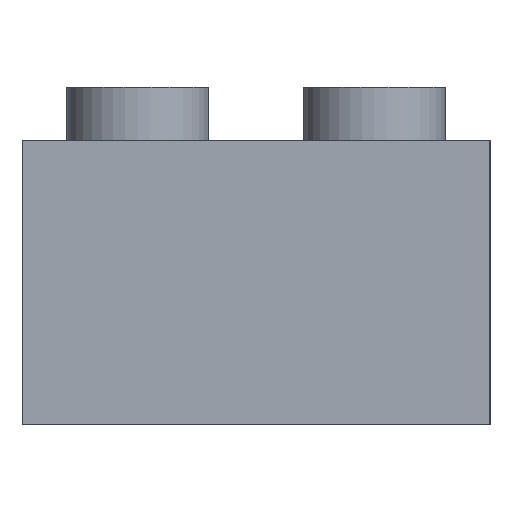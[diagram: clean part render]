
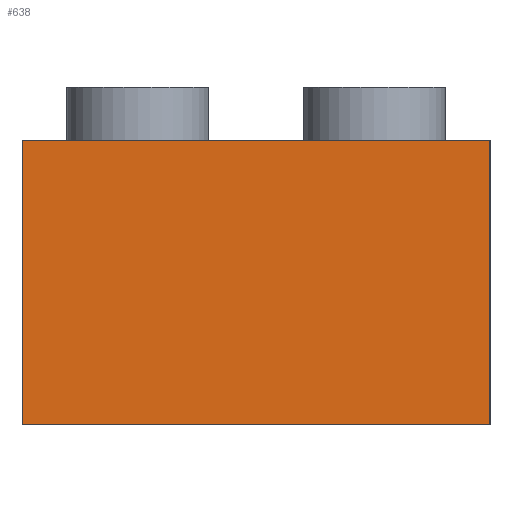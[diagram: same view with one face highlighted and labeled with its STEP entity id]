
A CAD part, left-side view. The second image highlights one B-rep face of the part: STEP entity #638.
In plain terms, the highlighted planar face has unit normal (-1, 0, 0).
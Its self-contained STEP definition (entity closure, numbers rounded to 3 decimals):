
#44 = PLANE('',#45);
#45 = AXIS2_PLACEMENT_3D('',#46,#47,#48);
#46 = CARTESIAN_POINT('',(-20.,-13.277,-9.58));
#47 = DIRECTION('',(0.,1.,0.));
#48 = DIRECTION('',(0.,0.,1.));
#72 = PLANE('',#73);
#73 = AXIS2_PLACEMENT_3D('',#74,#75,#76);
#74 = CARTESIAN_POINT('',(-20.,-13.277,-9.58));
#75 = DIRECTION('',(0.,0.,1.));
#76 = DIRECTION('',(1.,0.,0.));
#100 = PLANE('',#101);
#101 = AXIS2_PLACEMENT_3D('',#102,#103,#104);
#102 = CARTESIAN_POINT('',(-20.,13.277,-9.58));
#103 = DIRECTION('',(0.,1.,0.));
#104 = DIRECTION('',(0.,0.,1.));
#126 = PLANE('',#127);
#127 = AXIS2_PLACEMENT_3D('',#128,#129,#130);
#128 = CARTESIAN_POINT('',(-20.,-13.277,6.555));
#129 = DIRECTION('',(0.,0.,1.));
#130 = DIRECTION('',(1.,0.,0.));
#142 = VERTEX_POINT('',#143);
#143 = CARTESIAN_POINT('',(-20.,-13.277,-9.58));
#164 = EDGE_CURVE('',#142,#165,#167,.T.);
#165 = VERTEX_POINT('',#166);
#166 = CARTESIAN_POINT('',(-20.,-13.277,6.555));
#167 = SURFACE_CURVE('',#168,(#172,#179),.PCURVE_S1.);
#168 = LINE('',#169,#170);
#169 = CARTESIAN_POINT('',(-20.,-13.277,-9.58));
#170 = VECTOR('',#171,1.);
#171 = DIRECTION('',(0.,0.,1.));
#172 = PCURVE('',#44,#173);
#173 = DEFINITIONAL_REPRESENTATION('',(#174),#178);
#174 = LINE('',#175,#176);
#175 = CARTESIAN_POINT('',(0.,0.));
#176 = VECTOR('',#177,1.);
#177 = DIRECTION('',(1.,0.));
#178 = ( GEOMETRIC_REPRESENTATION_CONTEXT(2) 
PARAMETRIC_REPRESENTATION_CONTEXT() REPRESENTATION_CONTEXT('2D SPACE',''
  ) );
#179 = PCURVE('',#180,#185);
#180 = PLANE('',#181);
#181 = AXIS2_PLACEMENT_3D('',#182,#183,#184);
#182 = CARTESIAN_POINT('',(-20.,-13.277,-9.58));
#183 = DIRECTION('',(1.,0.,0.));
#184 = DIRECTION('',(0.,0.,1.));
#185 = DEFINITIONAL_REPRESENTATION('',(#186),#190);
#186 = LINE('',#187,#188);
#187 = CARTESIAN_POINT('',(0.,0.));
#188 = VECTOR('',#189,1.);
#189 = DIRECTION('',(1.,0.));
#190 = ( GEOMETRIC_REPRESENTATION_CONTEXT(2) 
PARAMETRIC_REPRESENTATION_CONTEXT() REPRESENTATION_CONTEXT('2D SPACE',''
  ) );
#217 = EDGE_CURVE('',#165,#218,#220,.T.);
#218 = VERTEX_POINT('',#219);
#219 = CARTESIAN_POINT('',(-20.,13.277,6.555));
#220 = SURFACE_CURVE('',#221,(#225,#232),.PCURVE_S1.);
#221 = LINE('',#222,#223);
#222 = CARTESIAN_POINT('',(-20.,-13.277,6.555));
#223 = VECTOR('',#224,1.);
#224 = DIRECTION('',(0.,1.,0.));
#225 = PCURVE('',#126,#226);
#226 = DEFINITIONAL_REPRESENTATION('',(#227),#231);
#227 = LINE('',#228,#229);
#228 = CARTESIAN_POINT('',(0.,0.));
#229 = VECTOR('',#230,1.);
#230 = DIRECTION('',(0.,1.));
#231 = ( GEOMETRIC_REPRESENTATION_CONTEXT(2) 
PARAMETRIC_REPRESENTATION_CONTEXT() REPRESENTATION_CONTEXT('2D SPACE',''
  ) );
#232 = PCURVE('',#180,#233);
#233 = DEFINITIONAL_REPRESENTATION('',(#234),#238);
#234 = LINE('',#235,#236);
#235 = CARTESIAN_POINT('',(16.134,0.));
#236 = VECTOR('',#237,1.);
#237 = DIRECTION('',(0.,-1.));
#238 = ( GEOMETRIC_REPRESENTATION_CONTEXT(2) 
PARAMETRIC_REPRESENTATION_CONTEXT() REPRESENTATION_CONTEXT('2D SPACE',''
  ) );
#453 = VERTEX_POINT('',#454);
#454 = CARTESIAN_POINT('',(-20.,13.277,-9.58));
#475 = EDGE_CURVE('',#453,#218,#476,.T.);
#476 = SURFACE_CURVE('',#477,(#481,#488),.PCURVE_S1.);
#477 = LINE('',#478,#479);
#478 = CARTESIAN_POINT('',(-20.,13.277,-9.58));
#479 = VECTOR('',#480,1.);
#480 = DIRECTION('',(0.,0.,1.));
#481 = PCURVE('',#100,#482);
#482 = DEFINITIONAL_REPRESENTATION('',(#483),#487);
#483 = LINE('',#484,#485);
#484 = CARTESIAN_POINT('',(0.,0.));
#485 = VECTOR('',#486,1.);
#486 = DIRECTION('',(1.,0.));
#487 = ( GEOMETRIC_REPRESENTATION_CONTEXT(2) 
PARAMETRIC_REPRESENTATION_CONTEXT() REPRESENTATION_CONTEXT('2D SPACE',''
  ) );
#488 = PCURVE('',#180,#489);
#489 = DEFINITIONAL_REPRESENTATION('',(#490),#494);
#490 = LINE('',#491,#492);
#491 = CARTESIAN_POINT('',(0.,-26.555));
#492 = VECTOR('',#493,1.);
#493 = DIRECTION('',(1.,0.));
#494 = ( GEOMETRIC_REPRESENTATION_CONTEXT(2) 
PARAMETRIC_REPRESENTATION_CONTEXT() REPRESENTATION_CONTEXT('2D SPACE',''
  ) );
#501 = EDGE_CURVE('',#142,#453,#502,.T.);
#502 = SURFACE_CURVE('',#503,(#507,#514),.PCURVE_S1.);
#503 = LINE('',#504,#505);
#504 = CARTESIAN_POINT('',(-20.,-13.277,-9.58));
#505 = VECTOR('',#506,1.);
#506 = DIRECTION('',(0.,1.,0.));
#507 = PCURVE('',#72,#508);
#508 = DEFINITIONAL_REPRESENTATION('',(#509),#513);
#509 = LINE('',#510,#511);
#510 = CARTESIAN_POINT('',(0.,0.));
#511 = VECTOR('',#512,1.);
#512 = DIRECTION('',(0.,1.));
#513 = ( GEOMETRIC_REPRESENTATION_CONTEXT(2) 
PARAMETRIC_REPRESENTATION_CONTEXT() REPRESENTATION_CONTEXT('2D SPACE',''
  ) );
#514 = PCURVE('',#180,#515);
#515 = DEFINITIONAL_REPRESENTATION('',(#516),#520);
#516 = LINE('',#517,#518);
#517 = CARTESIAN_POINT('',(0.,0.));
#518 = VECTOR('',#519,1.);
#519 = DIRECTION('',(0.,-1.));
#520 = ( GEOMETRIC_REPRESENTATION_CONTEXT(2) 
PARAMETRIC_REPRESENTATION_CONTEXT() REPRESENTATION_CONTEXT('2D SPACE',''
  ) );
#638 = ADVANCED_FACE('',(#639),#180,.F.);
#639 = FACE_BOUND('',#640,.F.);
#640 = EDGE_LOOP('',(#641,#642,#643,#644));
#641 = ORIENTED_EDGE('',*,*,#164,.F.);
#642 = ORIENTED_EDGE('',*,*,#501,.T.);
#643 = ORIENTED_EDGE('',*,*,#475,.T.);
#644 = ORIENTED_EDGE('',*,*,#217,.F.);
